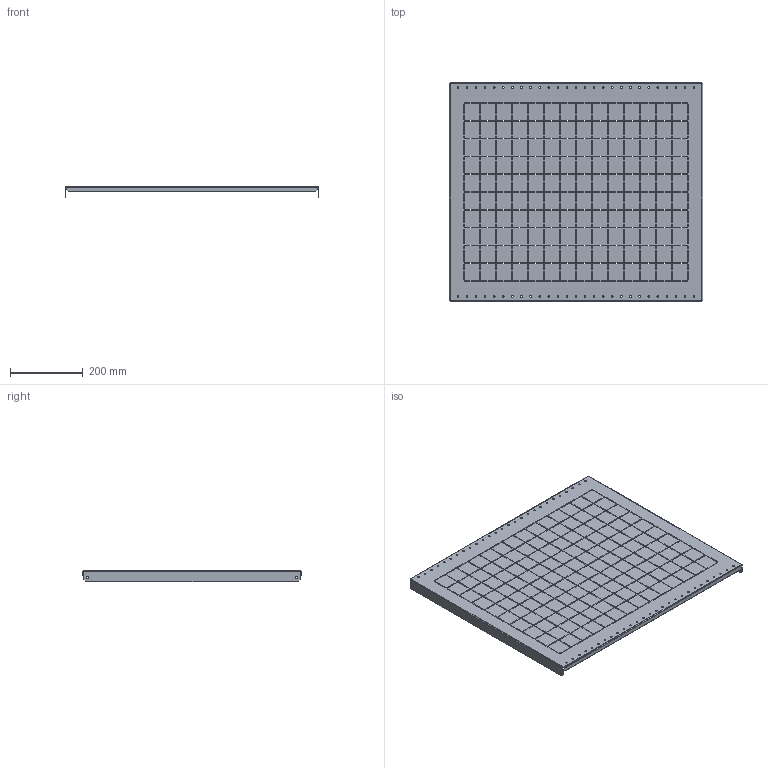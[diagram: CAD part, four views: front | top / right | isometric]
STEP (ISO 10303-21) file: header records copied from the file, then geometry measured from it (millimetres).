
FILE_DESCRIPTION (( 'STEP AP203' ), '1' );
FILE_NAME ('MA1.800.060806.04.01 Ïàíåëè áîêîâûå äëÿ ñåêöèîíèðîâàíèÿ Â600 Ã800 ìì.STEP', '2024-12-02T14:00:31', ( '' ), ( '' ), 'SwSTEP 2.0', 'SolidWorks 2021', '' );
FILE_SCHEMA (( 'CONFIG_CONTROL_DESIGN' ));
Length unit declared in the file: millimetre
Products named in the file (1): MA1.800.060806.04.01 Ïàíåëè áîêîâûå äëÿ ñåêöèîíèðîâàíèÿ Â600 Ã800 ìì
Bounding box: 697 x 600 x 31 mm (x, y, z)
Volume: 663997.2 mm3; surface area: 929893.2 mm2
Topology: 1 solids, 1 shells, 1320 faces, 3922 edges, 2604 vertices
Faces by surface type: plane 1254, cylinder 66
Full cylindrical faces by diameter (mm): 4.5 x54, 5.5 x4
Entity records: 44597 total; most frequent: CARTESIAN_POINT 7789, ORIENTED_EDGE 7728, DIRECTION 6638, EDGE_CURVE 3864, LINE 3732, VECTOR 3732, VERTEX_POINT 2604, EDGE_LOOP 2102
